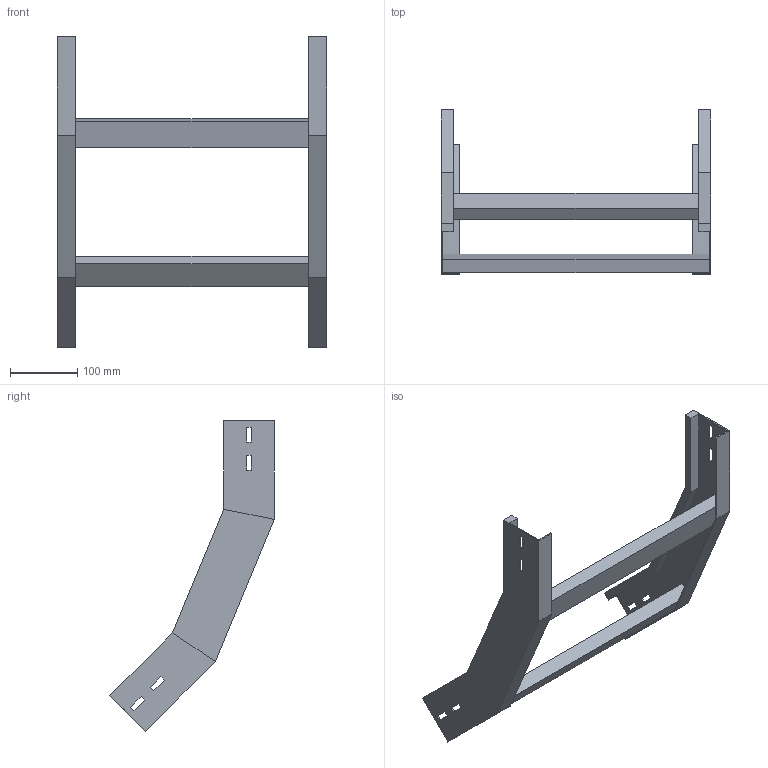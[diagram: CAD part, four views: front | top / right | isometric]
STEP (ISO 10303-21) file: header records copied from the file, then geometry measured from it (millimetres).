
FILE_DESCRIPTION (( 'STEP AP214' ), '1' );
FILE_NAME ('B2X31B5C400XX.step', '2025-03-20T10:10:57', ( '' ), ( '' ), 'SwSTEP 2.0', 'SolidWorks 2023', '' );
FILE_SCHEMA (( 'AUTOMOTIVE_DESIGN' ));
Length unit declared in the file: millimetre
Products named in the file (3): B2X31B5C400XX; TRAVERSINO_400; LONGH.SALITA_45°_H75_R500
Assembly tree (4 placements, depth 2):
  B2X31B5C400XX
    LONGH.SALITA_45°_H75_R500  x2
    TRAVERSINO_400  x2
Bounding box: 400 x 244.02 x 461.09 mm (x, y, z)
Volume: 1017721.5 mm3; surface area: 332421.9 mm2
Topology: 4 solids, 4 shells, 96 faces, 232 edges, 144 vertices
Faces by surface type: plane 96
Entity records: 1472 total; most frequent: CARTESIAN_POINT 243, ORIENTED_EDGE 232, DIRECTION 226, LINE 116, EDGE_CURVE 116, VECTOR 116, VERTEX_POINT 72, EDGE_LOOP 56
